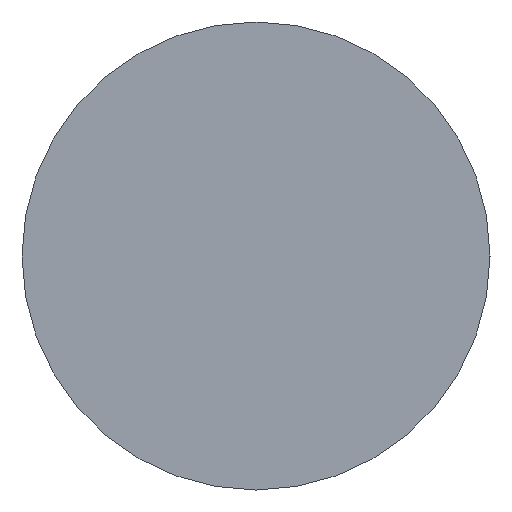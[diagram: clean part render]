
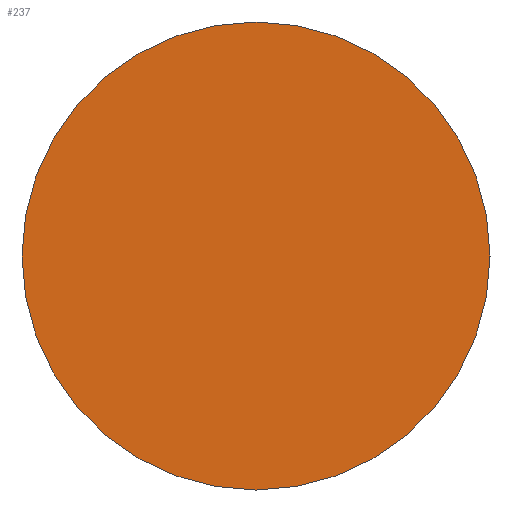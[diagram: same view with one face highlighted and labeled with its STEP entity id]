
A CAD part, left-side view. The second image highlights one B-rep face of the part: STEP entity #237.
In plain terms, the highlighted planar face has unit normal (-1, 0, 0).
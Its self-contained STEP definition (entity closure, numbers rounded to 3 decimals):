
#107 = EDGE_LOOP ( 'NONE', ( #775, #289 ) ) ;
#125 = CIRCLE ( 'NONE', #132, 15.5 ) ;
#131 = EDGE_CURVE ( 'NONE', #446, #414, #125, .T. ) ;
#132 = AXIS2_PLACEMENT_3D ( 'NONE', #773, #176, #248 ) ;
#176 = DIRECTION ( 'NONE',  ( -1., 0., 0. ) ) ;
#236 = PLANE ( 'NONE',  #590 ) ;
#237 = ADVANCED_FACE ( 'NONE', ( #372 ), #236, .F. ) ;
#248 = DIRECTION ( 'NONE',  ( 0., 0., 1. ) ) ;
#289 = ORIENTED_EDGE ( 'NONE', *, *, #131, .T. ) ;
#306 = CARTESIAN_POINT ( 'NONE',  ( 0., 0., 0. ) ) ;
#372 = FACE_OUTER_BOUND ( 'NONE', #107, .T. ) ;
#414 = VERTEX_POINT ( 'NONE', #633 ) ;
#422 = DIRECTION ( 'NONE',  ( 1., 0., 0. ) ) ;
#426 = DIRECTION ( 'NONE',  ( 0., 0., -1. ) ) ;
#446 = VERTEX_POINT ( 'NONE', #458 ) ;
#458 = CARTESIAN_POINT ( 'NONE',  ( 0., 0., -15.5 ) ) ;
#494 = DIRECTION ( 'NONE',  ( -1., 0., 0. ) ) ;
#547 = DIRECTION ( 'NONE',  ( 0., 0., 1. ) ) ;
#590 = AXIS2_PLACEMENT_3D ( 'NONE', #306, #422, #426 ) ;
#597 = EDGE_CURVE ( 'NONE', #414, #446, #786, .T. ) ;
#633 = CARTESIAN_POINT ( 'NONE',  ( 0., 0., 15.5 ) ) ;
#677 = AXIS2_PLACEMENT_3D ( 'NONE', #759, #494, #547 ) ;
#759 = CARTESIAN_POINT ( 'NONE',  ( 0., 0., 0. ) ) ;
#773 = CARTESIAN_POINT ( 'NONE',  ( 0., 0., 0. ) ) ;
#775 = ORIENTED_EDGE ( 'NONE', *, *, #597, .T. ) ;
#786 = CIRCLE ( 'NONE', #677, 15.5 ) ;
